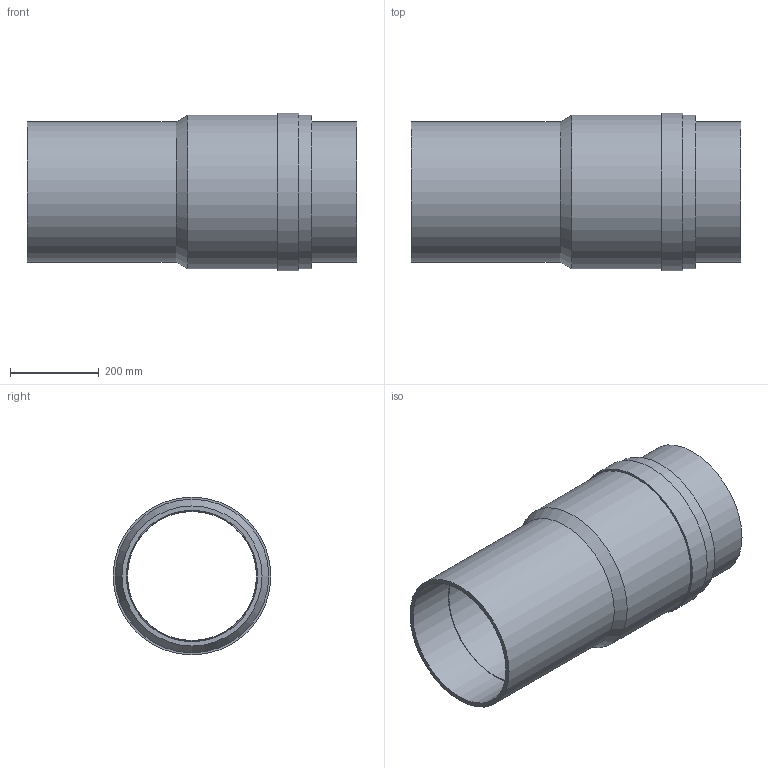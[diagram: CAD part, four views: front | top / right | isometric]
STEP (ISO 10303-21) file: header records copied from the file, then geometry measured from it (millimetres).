
FILE_DESCRIPTION(/* description */ (''),/* implementation_level */ '2;1');
FILE_NAME(/* name */ 'Z:\Geberit\Export\NewStep\372701.stp',/* time_stamp */ '2014-04-02T08:07:04+02:00',/* author */ ('nelson'),/* organization */ (''),/* preprocessor_version */ 'ST-DEVELOPER v15.2',/* originating_system */ 'Autodesk Inventor 2014',/* authorisation */ '');
FILE_SCHEMA (('AUTOMOTIVE_DESIGN { 1 0 10303 214 3 1 1 }'));
Length unit declared in the file: millimetre
Products named in the file (1): 372701
Bounding box: 740.87 x 354.9 x 354.9 mm (x, y, z)
Volume: 11349160.6 mm3; surface area: 2699326.7 mm2
Topology: 2 solids, 2 shells, 33 faces, 60 edges, 35 vertices
Faces by surface type: cylinder 16, plane 8, cone 6, torus 3
Full cylindrical faces by diameter (mm): 289.9 x2, 292.9 x2, 295.4 x2, 298 x2, 315 x2, 318.4 x2, 336.9 x1, 345.2 x2, 354.9 x1
Entity records: 692 total; most frequent: DIRECTION 134, CARTESIAN_POINT 100, AXIS2_PLACEMENT_3D 67, EDGE_LOOP 66, ORIENTED_EDGE 66, FACE_BOUND 37, CIRCLE 33, VERTEX_POINT 33
